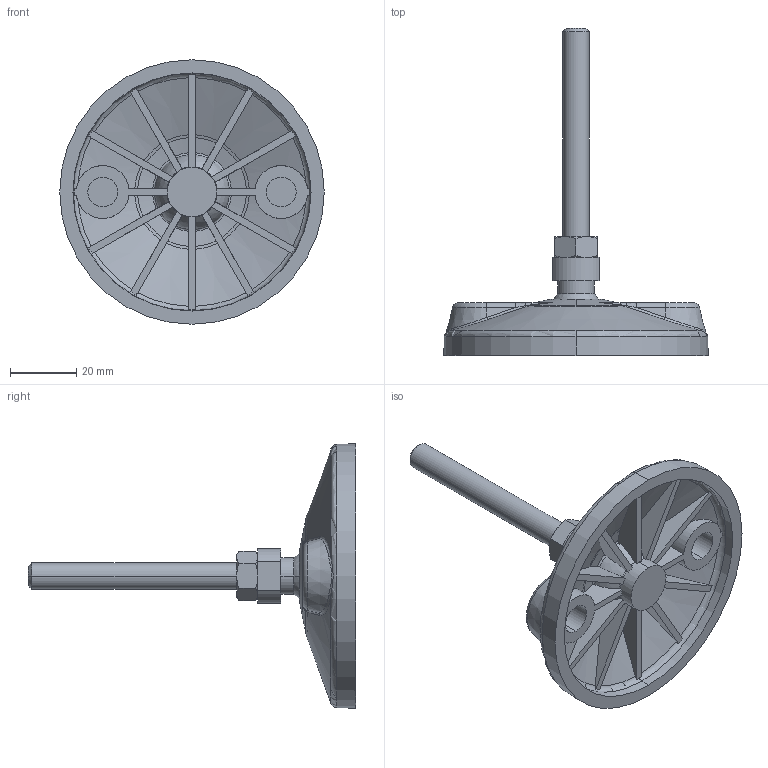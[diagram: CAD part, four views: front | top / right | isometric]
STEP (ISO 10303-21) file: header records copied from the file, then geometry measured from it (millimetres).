
FILE_DESCRIPTION (( 'STEP AP214' ), '1' );
FILE_NAME ('331 80 M8.STEP', '2017-04-06T09:03:27', ( '' ), ( '' ), 'SwSTEP 2.0', 'SolidWorks 2016', '' );
FILE_SCHEMA (( 'AUTOMOTIVE_DESIGN' ));
Length unit declared in the file: millimetre
Products named in the file (4): Tige fileté M8; Semelle; Écrou M8; 331 80 M8
Assembly tree (3 placements, depth 2):
  331 80 M8
    Semelle
    Tige fileté M8
    Écrou M8
Bounding box: 80 x 99 x 80 mm (x, y, z)
Volume: 40134.8 mm3; surface area: 21477.9 mm2
Topology: 3 solids, 3 shells, 230 faces, 610 edges, 388 vertices
Faces by surface type: plane 64, cone 51, torus 45, bspline 30, cylinder 24, sphere 16
Entity records: 8764 total; most frequent: CARTESIAN_POINT 3160, ORIENTED_EDGE 1200, DIRECTION 1033, EDGE_CURVE 600, AXIS2_PLACEMENT_3D 461, VERTEX_POINT 382, CIRCLE 255, EDGE_LOOP 238
